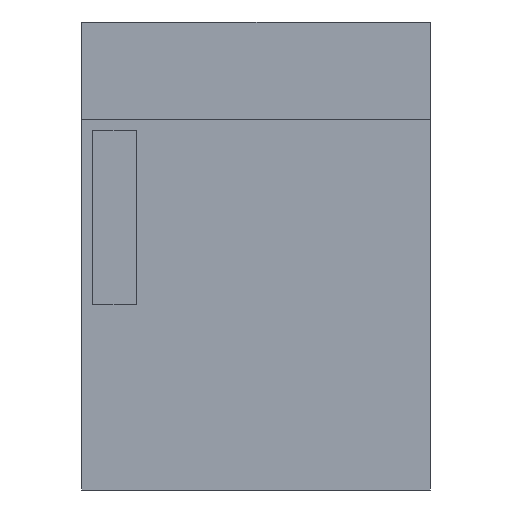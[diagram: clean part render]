
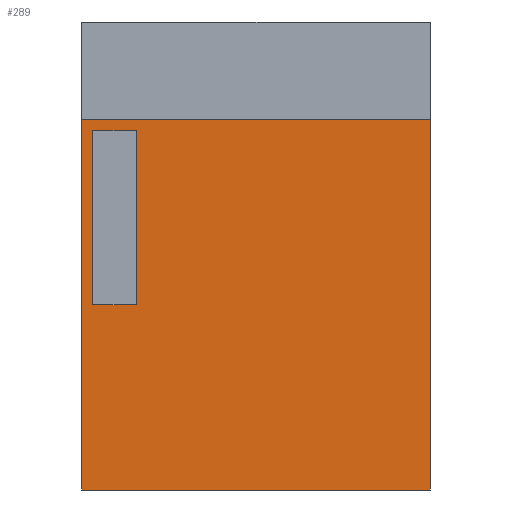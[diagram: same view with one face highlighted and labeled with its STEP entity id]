
A CAD part, front view. The second image highlights one B-rep face of the part: STEP entity #289.
In plain terms, the highlighted planar face has unit normal (0, -1, 0).
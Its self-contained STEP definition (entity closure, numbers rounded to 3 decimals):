
#24 = VERTEX_POINT('',#25);
#25 = CARTESIAN_POINT('',(-93.,-73.164,12.));
#32 = PLANE('',#33);
#33 = AXIS2_PLACEMENT_3D('',#34,#35,#36);
#34 = CARTESIAN_POINT('',(-93.,-89.,-4.));
#35 = DIRECTION('',(1.,0.,0.));
#36 = DIRECTION('',(0.,0.,1.));
#44 = PLANE('',#45);
#45 = AXIS2_PLACEMENT_3D('',#46,#47,#48);
#46 = CARTESIAN_POINT('',(-93.,-89.,12.));
#47 = DIRECTION('',(0.,0.,1.));
#48 = DIRECTION('',(1.,0.,0.));
#85 = VERTEX_POINT('',#86);
#86 = CARTESIAN_POINT('',(-93.,-73.164,-4.));
#100 = PLANE('',#101);
#101 = AXIS2_PLACEMENT_3D('',#102,#103,#104);
#102 = CARTESIAN_POINT('',(-93.,-89.,-4.));
#103 = DIRECTION('',(0.,0.,1.));
#104 = DIRECTION('',(1.,0.,0.));
#112 = EDGE_CURVE('',#24,#85,#113,.T.);
#113 = SURFACE_CURVE('',#114,(#118,#124),.PCURVE_S1.);
#114 = LINE('',#115,#116);
#115 = CARTESIAN_POINT('',(-93.,-73.164,-12.5));
#116 = VECTOR('',#117,1.);
#117 = DIRECTION('',(0.,0.,-1.));
#118 = PCURVE('',#32,#119);
#119 = DEFINITIONAL_REPRESENTATION('',(#120),#123);
#120 = B_SPLINE_CURVE_WITH_KNOTS('',1,(#121,#122),.UNSPECIFIED.,.F.,.F.,
  (2,2),(-24.5,-8.5),.PIECEWISE_BEZIER_KNOTS.);
#121 = CARTESIAN_POINT('',(16.,-15.837));
#122 = CARTESIAN_POINT('',(0.,-15.837));
#123 = ( GEOMETRIC_REPRESENTATION_CONTEXT(2) 
PARAMETRIC_REPRESENTATION_CONTEXT() REPRESENTATION_CONTEXT('2D SPACE',''
  ) );
#124 = PCURVE('',#125,#130);
#125 = PLANE('',#126);
#126 = AXIS2_PLACEMENT_3D('',#127,#128,#129);
#127 = CARTESIAN_POINT('',(-94.,-73.164,-21.));
#128 = DIRECTION('',(0.,1.,0.));
#129 = DIRECTION('',(0.,0.,1.));
#130 = DEFINITIONAL_REPRESENTATION('',(#131),#134);
#131 = B_SPLINE_CURVE_WITH_KNOTS('',1,(#132,#133),.UNSPECIFIED.,.F.,.F.,
  (2,2),(-24.5,-8.5),.PIECEWISE_BEZIER_KNOTS.);
#132 = CARTESIAN_POINT('',(33.,1.));
#133 = CARTESIAN_POINT('',(17.,1.));
#134 = ( GEOMETRIC_REPRESENTATION_CONTEXT(2) 
PARAMETRIC_REPRESENTATION_CONTEXT() REPRESENTATION_CONTEXT('2D SPACE',''
  ) );
#195 = VERTEX_POINT('',#196);
#196 = CARTESIAN_POINT('',(-89.,-73.164,12.));
#210 = PLANE('',#211);
#211 = AXIS2_PLACEMENT_3D('',#212,#213,#214);
#212 = CARTESIAN_POINT('',(-89.,-89.,-4.));
#213 = DIRECTION('',(1.,0.,0.));
#214 = DIRECTION('',(0.,0.,1.));
#222 = EDGE_CURVE('',#24,#195,#223,.T.);
#223 = SURFACE_CURVE('',#224,(#228,#234),.PCURVE_S1.);
#224 = LINE('',#225,#226);
#225 = CARTESIAN_POINT('',(-93.5,-73.164,12.));
#226 = VECTOR('',#227,1.);
#227 = DIRECTION('',(1.,0.,0.));
#228 = PCURVE('',#44,#229);
#229 = DEFINITIONAL_REPRESENTATION('',(#230),#233);
#230 = B_SPLINE_CURVE_WITH_KNOTS('',1,(#231,#232),.UNSPECIFIED.,.F.,.F.,
  (2,2),(0.5,4.5),.PIECEWISE_BEZIER_KNOTS.);
#231 = CARTESIAN_POINT('',(0.,15.837));
#232 = CARTESIAN_POINT('',(4.,15.837));
#233 = ( GEOMETRIC_REPRESENTATION_CONTEXT(2) 
PARAMETRIC_REPRESENTATION_CONTEXT() REPRESENTATION_CONTEXT('2D SPACE',''
  ) );
#234 = PCURVE('',#125,#235);
#235 = DEFINITIONAL_REPRESENTATION('',(#236),#239);
#236 = B_SPLINE_CURVE_WITH_KNOTS('',1,(#237,#238),.UNSPECIFIED.,.F.,.F.,
  (2,2),(0.5,4.5),.PIECEWISE_BEZIER_KNOTS.);
#237 = CARTESIAN_POINT('',(33.,1.));
#238 = CARTESIAN_POINT('',(33.,5.));
#239 = ( GEOMETRIC_REPRESENTATION_CONTEXT(2) 
PARAMETRIC_REPRESENTATION_CONTEXT() REPRESENTATION_CONTEXT('2D SPACE',''
  ) );
#289 = ADVANCED_FACE('',(#290,#404),#125,.F.);
#290 = FACE_BOUND('',#291,.F.);
#291 = EDGE_LOOP('',(#292,#322,#350,#378));
#292 = ORIENTED_EDGE('',*,*,#293,.F.);
#293 = EDGE_CURVE('',#294,#296,#298,.T.);
#294 = VERTEX_POINT('',#295);
#295 = CARTESIAN_POINT('',(-94.,-73.164,-21.));
#296 = VERTEX_POINT('',#297);
#297 = CARTESIAN_POINT('',(-62.,-73.164,-21.));
#298 = SURFACE_CURVE('',#299,(#303,#310),.PCURVE_S1.);
#299 = LINE('',#300,#301);
#300 = CARTESIAN_POINT('',(-94.,-73.164,-21.));
#301 = VECTOR('',#302,1.);
#302 = DIRECTION('',(1.,0.,0.));
#303 = PCURVE('',#125,#304);
#304 = DEFINITIONAL_REPRESENTATION('',(#305),#309);
#305 = LINE('',#306,#307);
#306 = CARTESIAN_POINT('',(0.,0.));
#307 = VECTOR('',#308,1.);
#308 = DIRECTION('',(0.,1.));
#309 = ( GEOMETRIC_REPRESENTATION_CONTEXT(2) 
PARAMETRIC_REPRESENTATION_CONTEXT() REPRESENTATION_CONTEXT('2D SPACE',''
  ) );
#310 = PCURVE('',#311,#316);
#311 = PLANE('',#312);
#312 = AXIS2_PLACEMENT_3D('',#313,#314,#315);
#313 = CARTESIAN_POINT('',(-94.,-73.164,-21.));
#314 = DIRECTION('',(0.,0.,1.));
#315 = DIRECTION('',(1.,0.,0.));
#316 = DEFINITIONAL_REPRESENTATION('',(#317),#321);
#317 = LINE('',#318,#319);
#318 = CARTESIAN_POINT('',(0.,0.));
#319 = VECTOR('',#320,1.);
#320 = DIRECTION('',(1.,0.));
#321 = ( GEOMETRIC_REPRESENTATION_CONTEXT(2) 
PARAMETRIC_REPRESENTATION_CONTEXT() REPRESENTATION_CONTEXT('2D SPACE',''
  ) );
#322 = ORIENTED_EDGE('',*,*,#323,.T.);
#323 = EDGE_CURVE('',#294,#324,#326,.T.);
#324 = VERTEX_POINT('',#325);
#325 = CARTESIAN_POINT('',(-94.,-73.164,13.));
#326 = SURFACE_CURVE('',#327,(#331,#338),.PCURVE_S1.);
#327 = LINE('',#328,#329);
#328 = CARTESIAN_POINT('',(-94.,-73.164,-21.));
#329 = VECTOR('',#330,1.);
#330 = DIRECTION('',(0.,0.,1.));
#331 = PCURVE('',#125,#332);
#332 = DEFINITIONAL_REPRESENTATION('',(#333),#337);
#333 = LINE('',#334,#335);
#334 = CARTESIAN_POINT('',(0.,0.));
#335 = VECTOR('',#336,1.);
#336 = DIRECTION('',(1.,0.));
#337 = ( GEOMETRIC_REPRESENTATION_CONTEXT(2) 
PARAMETRIC_REPRESENTATION_CONTEXT() REPRESENTATION_CONTEXT('2D SPACE',''
  ) );
#338 = PCURVE('',#339,#344);
#339 = PLANE('',#340);
#340 = AXIS2_PLACEMENT_3D('',#341,#342,#343);
#341 = CARTESIAN_POINT('',(-94.,-73.164,-21.));
#342 = DIRECTION('',(1.,0.,0.));
#343 = DIRECTION('',(0.,0.,1.));
#344 = DEFINITIONAL_REPRESENTATION('',(#345),#349);
#345 = LINE('',#346,#347);
#346 = CARTESIAN_POINT('',(0.,0.));
#347 = VECTOR('',#348,1.);
#348 = DIRECTION('',(1.,0.));
#349 = ( GEOMETRIC_REPRESENTATION_CONTEXT(2) 
PARAMETRIC_REPRESENTATION_CONTEXT() REPRESENTATION_CONTEXT('2D SPACE',''
  ) );
#350 = ORIENTED_EDGE('',*,*,#351,.T.);
#351 = EDGE_CURVE('',#324,#352,#354,.T.);
#352 = VERTEX_POINT('',#353);
#353 = CARTESIAN_POINT('',(-62.,-73.164,13.));
#354 = SURFACE_CURVE('',#355,(#359,#366),.PCURVE_S1.);
#355 = LINE('',#356,#357);
#356 = CARTESIAN_POINT('',(-94.,-73.164,13.));
#357 = VECTOR('',#358,1.);
#358 = DIRECTION('',(1.,0.,0.));
#359 = PCURVE('',#125,#360);
#360 = DEFINITIONAL_REPRESENTATION('',(#361),#365);
#361 = LINE('',#362,#363);
#362 = CARTESIAN_POINT('',(34.,0.));
#363 = VECTOR('',#364,1.);
#364 = DIRECTION('',(0.,1.));
#365 = ( GEOMETRIC_REPRESENTATION_CONTEXT(2) 
PARAMETRIC_REPRESENTATION_CONTEXT() REPRESENTATION_CONTEXT('2D SPACE',''
  ) );
#366 = PCURVE('',#367,#372);
#367 = PLANE('',#368);
#368 = AXIS2_PLACEMENT_3D('',#369,#370,#371);
#369 = CARTESIAN_POINT('',(-94.,-73.164,13.));
#370 = DIRECTION('',(0.,0.,1.));
#371 = DIRECTION('',(1.,0.,0.));
#372 = DEFINITIONAL_REPRESENTATION('',(#373),#377);
#373 = LINE('',#374,#375);
#374 = CARTESIAN_POINT('',(0.,0.));
#375 = VECTOR('',#376,1.);
#376 = DIRECTION('',(1.,0.));
#377 = ( GEOMETRIC_REPRESENTATION_CONTEXT(2) 
PARAMETRIC_REPRESENTATION_CONTEXT() REPRESENTATION_CONTEXT('2D SPACE',''
  ) );
#378 = ORIENTED_EDGE('',*,*,#379,.F.);
#379 = EDGE_CURVE('',#296,#352,#380,.T.);
#380 = SURFACE_CURVE('',#381,(#385,#392),.PCURVE_S1.);
#381 = LINE('',#382,#383);
#382 = CARTESIAN_POINT('',(-62.,-73.164,-21.));
#383 = VECTOR('',#384,1.);
#384 = DIRECTION('',(0.,0.,1.));
#385 = PCURVE('',#125,#386);
#386 = DEFINITIONAL_REPRESENTATION('',(#387),#391);
#387 = LINE('',#388,#389);
#388 = CARTESIAN_POINT('',(0.,32.));
#389 = VECTOR('',#390,1.);
#390 = DIRECTION('',(1.,0.));
#391 = ( GEOMETRIC_REPRESENTATION_CONTEXT(2) 
PARAMETRIC_REPRESENTATION_CONTEXT() REPRESENTATION_CONTEXT('2D SPACE',''
  ) );
#392 = PCURVE('',#393,#398);
#393 = PLANE('',#394);
#394 = AXIS2_PLACEMENT_3D('',#395,#396,#397);
#395 = CARTESIAN_POINT('',(-62.,-73.164,-21.));
#396 = DIRECTION('',(1.,0.,0.));
#397 = DIRECTION('',(0.,0.,1.));
#398 = DEFINITIONAL_REPRESENTATION('',(#399),#403);
#399 = LINE('',#400,#401);
#400 = CARTESIAN_POINT('',(0.,0.));
#401 = VECTOR('',#402,1.);
#402 = DIRECTION('',(1.,0.));
#403 = ( GEOMETRIC_REPRESENTATION_CONTEXT(2) 
PARAMETRIC_REPRESENTATION_CONTEXT() REPRESENTATION_CONTEXT('2D SPACE',''
  ) );
#404 = FACE_BOUND('',#405,.F.);
#405 = EDGE_LOOP('',(#406,#407,#408,#429));
#406 = ORIENTED_EDGE('',*,*,#222,.F.);
#407 = ORIENTED_EDGE('',*,*,#112,.T.);
#408 = ORIENTED_EDGE('',*,*,#409,.T.);
#409 = EDGE_CURVE('',#85,#410,#412,.T.);
#410 = VERTEX_POINT('',#411);
#411 = CARTESIAN_POINT('',(-89.,-73.164,-4.));
#412 = SURFACE_CURVE('',#413,(#417,#423),.PCURVE_S1.);
#413 = LINE('',#414,#415);
#414 = CARTESIAN_POINT('',(-93.5,-73.164,-4.));
#415 = VECTOR('',#416,1.);
#416 = DIRECTION('',(1.,0.,0.));
#417 = PCURVE('',#125,#418);
#418 = DEFINITIONAL_REPRESENTATION('',(#419),#422);
#419 = B_SPLINE_CURVE_WITH_KNOTS('',1,(#420,#421),.UNSPECIFIED.,.F.,.F.,
  (2,2),(0.5,4.5),.PIECEWISE_BEZIER_KNOTS.);
#420 = CARTESIAN_POINT('',(17.,1.));
#421 = CARTESIAN_POINT('',(17.,5.));
#422 = ( GEOMETRIC_REPRESENTATION_CONTEXT(2) 
PARAMETRIC_REPRESENTATION_CONTEXT() REPRESENTATION_CONTEXT('2D SPACE',''
  ) );
#423 = PCURVE('',#100,#424);
#424 = DEFINITIONAL_REPRESENTATION('',(#425),#428);
#425 = B_SPLINE_CURVE_WITH_KNOTS('',1,(#426,#427),.UNSPECIFIED.,.F.,.F.,
  (2,2),(0.5,4.5),.PIECEWISE_BEZIER_KNOTS.);
#426 = CARTESIAN_POINT('',(0.,15.837));
#427 = CARTESIAN_POINT('',(4.,15.837));
#428 = ( GEOMETRIC_REPRESENTATION_CONTEXT(2) 
PARAMETRIC_REPRESENTATION_CONTEXT() REPRESENTATION_CONTEXT('2D SPACE',''
  ) );
#429 = ORIENTED_EDGE('',*,*,#430,.F.);
#430 = EDGE_CURVE('',#195,#410,#431,.T.);
#431 = SURFACE_CURVE('',#432,(#436,#442),.PCURVE_S1.);
#432 = LINE('',#433,#434);
#433 = CARTESIAN_POINT('',(-89.,-73.164,-12.5));
#434 = VECTOR('',#435,1.);
#435 = DIRECTION('',(0.,0.,-1.));
#436 = PCURVE('',#125,#437);
#437 = DEFINITIONAL_REPRESENTATION('',(#438),#441);
#438 = B_SPLINE_CURVE_WITH_KNOTS('',1,(#439,#440),.UNSPECIFIED.,.F.,.F.,
  (2,2),(-24.5,-8.5),.PIECEWISE_BEZIER_KNOTS.);
#439 = CARTESIAN_POINT('',(33.,5.));
#440 = CARTESIAN_POINT('',(17.,5.));
#441 = ( GEOMETRIC_REPRESENTATION_CONTEXT(2) 
PARAMETRIC_REPRESENTATION_CONTEXT() REPRESENTATION_CONTEXT('2D SPACE',''
  ) );
#442 = PCURVE('',#210,#443);
#443 = DEFINITIONAL_REPRESENTATION('',(#444),#447);
#444 = B_SPLINE_CURVE_WITH_KNOTS('',1,(#445,#446),.UNSPECIFIED.,.F.,.F.,
  (2,2),(-24.5,-8.5),.PIECEWISE_BEZIER_KNOTS.);
#445 = CARTESIAN_POINT('',(16.,-15.837));
#446 = CARTESIAN_POINT('',(0.,-15.837));
#447 = ( GEOMETRIC_REPRESENTATION_CONTEXT(2) 
PARAMETRIC_REPRESENTATION_CONTEXT() REPRESENTATION_CONTEXT('2D SPACE',''
  ) );
